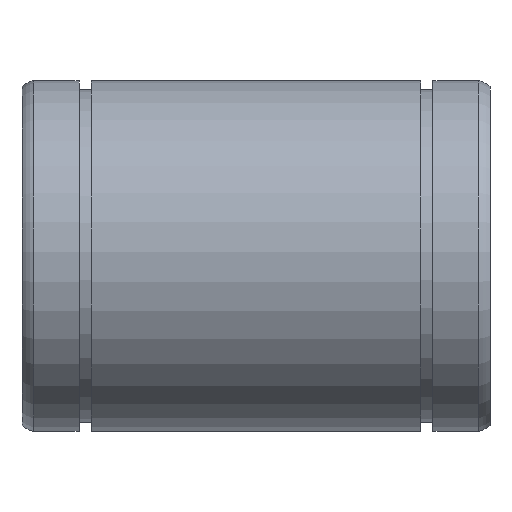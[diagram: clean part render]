
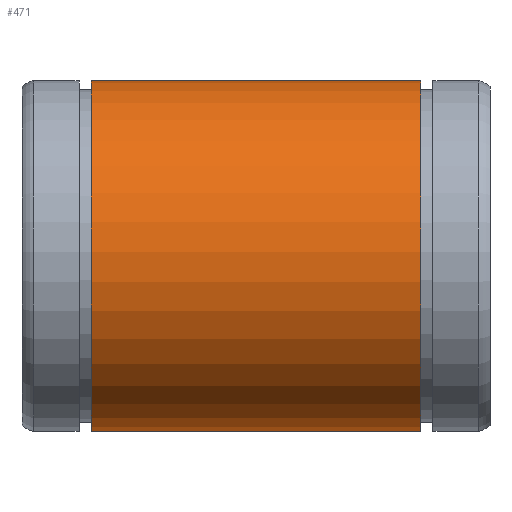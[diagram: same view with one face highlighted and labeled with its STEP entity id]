
A CAD part, front view. The second image highlights one B-rep face of the part: STEP entity #471.
In plain terms, the highlighted cylindrical face has radius 30 mm (diameter 60 mm), a partial arc.
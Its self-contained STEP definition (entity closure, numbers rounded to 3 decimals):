
#90=CARTESIAN_POINT('',(11.85,1.5,-29.962));
#91=VERTEX_POINT('',#90);
#98=CARTESIAN_POINT('',(68.15,1.5,-29.962));
#99=VERTEX_POINT('',#98);
#100=CARTESIAN_POINT('',(68.15,1.5,-29.962));
#101=DIRECTION('',(-1.0,0.0,0.0));
#102=VECTOR('',#101,56.3);
#103=LINE('',#100,#102);
#104=EDGE_CURVE('',#99,#91,#103,.T.);
#327=CARTESIAN_POINT('',(68.15,-1.5,-29.962));
#328=VERTEX_POINT('',#327);
#335=CARTESIAN_POINT('',(11.85,-1.5,-29.962));
#336=VERTEX_POINT('',#335);
#337=CARTESIAN_POINT('',(11.85,-1.5,-29.962));
#338=DIRECTION('',(1.0,0.0,0.0));
#339=VECTOR('',#338,56.3);
#340=LINE('',#337,#339);
#341=EDGE_CURVE('',#336,#328,#340,.T.);
#442=CARTESIAN_POINT('',(11.85,0.0,0.));
#443=DIRECTION('',(-1.0,0.0,0.0));
#444=DIRECTION('',(0.0,0.0,1.0));
#445=AXIS2_PLACEMENT_3D('',#442,#443,#444);
#446=CIRCLE('',#445,30.0);
#447=EDGE_CURVE('',#336,#91,#446,.T.);
#454=CARTESIAN_POINT('',(40.,0.0,0.));
#455=DIRECTION('',(-1.0,0.0,0.0));
#456=DIRECTION('',(0.0,0.0,1.0));
#457=AXIS2_PLACEMENT_3D('',#454,#455,#456);
#458=CYLINDRICAL_SURFACE('',#457,30.);
#459=ORIENTED_EDGE('',*,*,#341,.T.);
#460=CARTESIAN_POINT('',(68.15,0.0,0.));
#461=DIRECTION('',(-1.0,0.0,0.0));
#462=DIRECTION('',(0.0,0.0,1.0));
#463=AXIS2_PLACEMENT_3D('',#460,#461,#462);
#464=CIRCLE('',#463,30.);
#465=EDGE_CURVE('',#328,#99,#464,.T.);
#466=ORIENTED_EDGE('',*,*,#465,.T.);
#467=ORIENTED_EDGE('',*,*,#104,.T.);
#468=ORIENTED_EDGE('',*,*,#447,.F.);
#469=EDGE_LOOP('',(#459,#466,#467,#468));
#470=FACE_OUTER_BOUND('',#469,.T.);
#471=ADVANCED_FACE('',(#470),#458,.T.);
